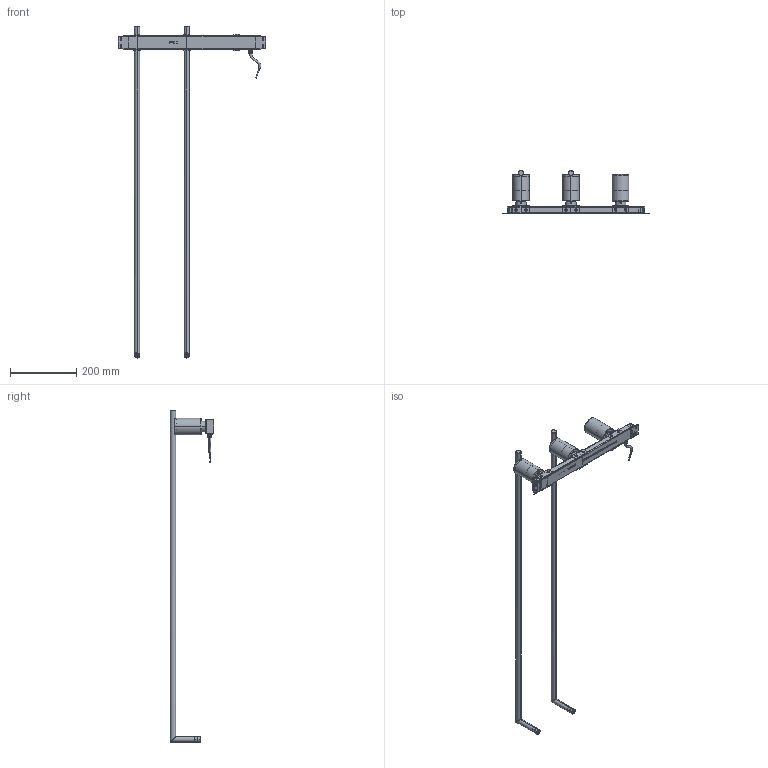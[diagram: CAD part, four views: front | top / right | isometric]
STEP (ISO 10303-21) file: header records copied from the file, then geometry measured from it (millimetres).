
FILE_DESCRIPTION((''),'2;1');
FILE_NAME('10000003_ASM','2025-07-03T16:46:54',('PC'),(''),'CREO PARAMETRIC BY PTC INC, 2019010','CREO PARAMETRIC BY PTC INC, 2019010','');
FILE_SCHEMA(('CONFIG_CONTROL_DESIGN'));
Length unit declared in the file: millimetre
Products named in the file (25): 0001; 0002; 0010; U0001; U0002; 1-BB1_3; 20002; 00; M4X6100; M4X60001; 0004; M5X1200; 1000000; 160001; 000; 0006; 31000; 0007; 20001; 30001; 0008; 1-0001; 0009; 10000003_ASM
Assembly tree (54 placements, depth 2):
  10000003_ASM
    0001
    0002
    0010
    U0001  x3
    U0002
    1-BB1_3  x2
    20002
    00
    M4X6100  x6
    M4X60001  x6
    00  x2
    0004  x3
    M5X1200  x12
    1000000  x2
    160001  x2
    000
    0006
    31000
    0007
    20001
    30001
    0008
    1-0001
    0009  x2
Bounding box: 442.91 x 130.24 x 1000 mm (x, y, z)
Volume: 390452.1 mm3; surface area: 497241.2 mm2
Topology: 70 solids, 75 shells, 3628 faces, 9787 edges, 6348 vertices
Faces by surface type: plane 1588, cylinder 1247, bspline 505, cone 238, torus 42, revolution 8
Entity records: 87082 total; most frequent: CARTESIAN_POINT 36408, ORIENTED_EDGE 10908, DIRECTION 9593, EDGE_CURVE 5458, VERTEX_POINT 3560, VECTOR 3485, LINE 3485, AXIS2_PLACEMENT_3D 3050
